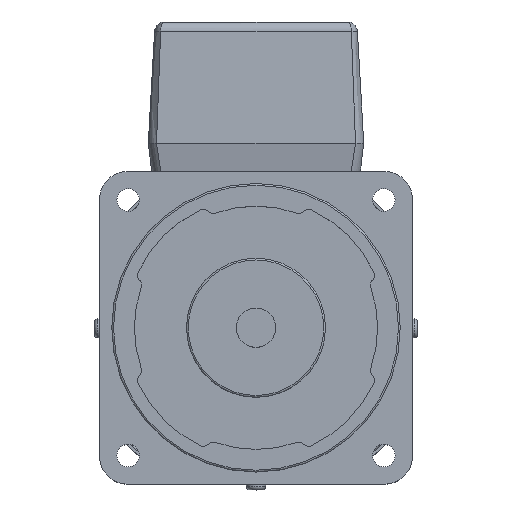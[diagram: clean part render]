
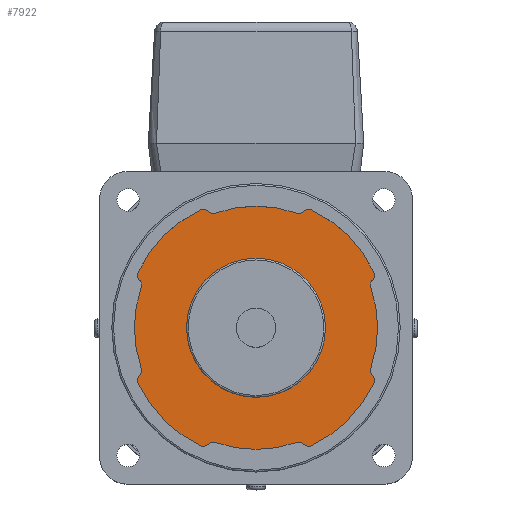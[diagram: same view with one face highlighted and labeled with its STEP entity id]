
A CAD part, top view. The second image highlights one B-rep face of the part: STEP entity #7922.
In plain terms, the highlighted planar face has unit normal (0, 0, 1).
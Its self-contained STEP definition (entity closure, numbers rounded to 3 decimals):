
#1511=CARTESIAN_POINT('',(20.0,0.,116.0));
#1512=VERTEX_POINT('',#1511);
#1513=CARTESIAN_POINT('',(0.,0.,116.0));
#1514=DIRECTION('',(0.0,0.0,-1.0));
#1515=DIRECTION('',(-1.0,0.0,0.0));
#1516=AXIS2_PLACEMENT_3D('',#1513,#1514,#1515);
#1517=CIRCLE('',#1516,20.0);
#1518=EDGE_CURVE('',#1512,#1512,#1517,.T.);
#1541=CARTESIAN_POINT('',(-13.722,-33.501,116.0));
#1542=VERTEX_POINT('',#1541);
#1558=CARTESIAN_POINT('',(-11.626,-33.013,116.0));
#1559=VERTEX_POINT('',#1558);
#1566=CARTESIAN_POINT('',(-12.291,-34.899,116.0));
#1567=DIRECTION('',(0.0,0.0,-1.0));
#1568=DIRECTION('',(-0.408,0.913,0.0));
#1569=AXIS2_PLACEMENT_3D('',#1566,#1567,#1568);
#1570=CIRCLE('',#1569,2.0);
#1571=EDGE_CURVE('',#1559,#1542,#1570,.F.);
#1591=CARTESIAN_POINT('',(11.626,-33.013,116.0));
#1592=VERTEX_POINT('',#1591);
#1599=CARTESIAN_POINT('',(0.,0.,116.));
#1600=DIRECTION('',(0.,0.,1.0));
#1601=DIRECTION('',(-0.383,-0.924,0.));
#1602=AXIS2_PLACEMENT_3D('',#1599,#1600,#1601);
#1603=CIRCLE('',#1602,35.0);
#1604=EDGE_CURVE('',#1559,#1592,#1603,.T.);
#1614=CARTESIAN_POINT('',(13.722,-33.501,116.0));
#1615=VERTEX_POINT('',#1614);
#1624=CARTESIAN_POINT('',(12.291,-34.899,116.0));
#1625=DIRECTION('',(0.0,0.0,-1.0));
#1626=DIRECTION('',(0.408,0.913,0.0));
#1627=AXIS2_PLACEMENT_3D('',#1624,#1625,#1626);
#1628=CIRCLE('',#1627,2.0);
#1629=EDGE_CURVE('',#1615,#1592,#1628,.F.);
#1656=CARTESIAN_POINT('',(16.006,-33.913,116.0));
#1657=VERTEX_POINT('',#1656);
#1664=CARTESIAN_POINT('',(15.152,-32.104,116.0));
#1665=DIRECTION('',(0.0,0.0,1.0));
#1666=DIRECTION('',(0.715,0.699,0.0));
#1667=AXIS2_PLACEMENT_3D('',#1664,#1665,#1666);
#1668=CIRCLE('',#1667,2.);
#1669=EDGE_CURVE('',#1615,#1657,#1668,.T.);
#1680=CARTESIAN_POINT('',(33.913,-16.006,116.0));
#1681=VERTEX_POINT('',#1680);
#1690=CARTESIAN_POINT('',(0.,0.,116.));
#1691=DIRECTION('',(0.,0.,1.0));
#1692=DIRECTION('',(0.383,-0.924,0.));
#1693=AXIS2_PLACEMENT_3D('',#1690,#1691,#1692);
#1694=CIRCLE('',#1693,37.5);
#1695=EDGE_CURVE('',#1657,#1681,#1694,.T.);
#1722=CARTESIAN_POINT('',(33.501,-13.722,116.0));
#1723=VERTEX_POINT('',#1722);
#1730=CARTESIAN_POINT('',(32.104,-15.152,116.0));
#1731=DIRECTION('',(0.0,0.0,1.0));
#1732=DIRECTION('',(-0.904,0.427,0.0));
#1733=AXIS2_PLACEMENT_3D('',#1730,#1731,#1732);
#1734=CIRCLE('',#1733,2.);
#1735=EDGE_CURVE('',#1681,#1723,#1734,.T.);
#1756=CARTESIAN_POINT('',(33.013,-11.626,116.0));
#1757=VERTEX_POINT('',#1756);
#1764=CARTESIAN_POINT('',(34.899,-12.291,116.0));
#1765=DIRECTION('',(0.0,0.0,-1.0));
#1766=DIRECTION('',(-0.913,-0.408,0.0));
#1767=AXIS2_PLACEMENT_3D('',#1764,#1765,#1766);
#1768=CIRCLE('',#1767,2.0);
#1769=EDGE_CURVE('',#1757,#1723,#1768,.F.);
#1779=CARTESIAN_POINT('',(33.013,11.626,116.0));
#1780=VERTEX_POINT('',#1779);
#1789=CARTESIAN_POINT('',(0.,0.,116.));
#1790=DIRECTION('',(0.,0.,1.0));
#1791=DIRECTION('',(0.924,-0.383,0.));
#1792=AXIS2_PLACEMENT_3D('',#1789,#1790,#1791);
#1793=CIRCLE('',#1792,35.);
#1794=EDGE_CURVE('',#1757,#1780,#1793,.T.);
#1812=CARTESIAN_POINT('',(33.501,13.722,116.0));
#1813=VERTEX_POINT('',#1812);
#1822=CARTESIAN_POINT('',(34.899,12.291,116.0));
#1823=DIRECTION('',(0.0,0.0,-1.0));
#1824=DIRECTION('',(-0.913,0.408,0.0));
#1825=AXIS2_PLACEMENT_3D('',#1822,#1823,#1824);
#1826=CIRCLE('',#1825,2.0);
#1827=EDGE_CURVE('',#1813,#1780,#1826,.F.);
#1854=CARTESIAN_POINT('',(33.913,16.006,116.0));
#1855=VERTEX_POINT('',#1854);
#1862=CARTESIAN_POINT('',(32.104,15.152,116.0));
#1863=DIRECTION('',(0.0,0.0,1.0));
#1864=DIRECTION('',(-0.699,0.715,0.0));
#1865=AXIS2_PLACEMENT_3D('',#1862,#1863,#1864);
#1866=CIRCLE('',#1865,2.);
#1867=EDGE_CURVE('',#1813,#1855,#1866,.T.);
#1878=CARTESIAN_POINT('',(16.006,33.913,116.0));
#1879=VERTEX_POINT('',#1878);
#1888=CARTESIAN_POINT('',(0.,0.,116.));
#1889=DIRECTION('',(0.,0.,1.0));
#1890=DIRECTION('',(0.924,0.383,0.));
#1891=AXIS2_PLACEMENT_3D('',#1888,#1889,#1890);
#1892=CIRCLE('',#1891,37.5);
#1893=EDGE_CURVE('',#1855,#1879,#1892,.T.);
#1920=CARTESIAN_POINT('',(13.722,33.501,116.0));
#1921=VERTEX_POINT('',#1920);
#1928=CARTESIAN_POINT('',(15.152,32.104,116.0));
#1929=DIRECTION('',(0.0,0.0,1.0));
#1930=DIRECTION('',(-0.427,-0.904,0.0));
#1931=AXIS2_PLACEMENT_3D('',#1928,#1929,#1930);
#1932=CIRCLE('',#1931,2.);
#1933=EDGE_CURVE('',#1879,#1921,#1932,.T.);
#1954=CARTESIAN_POINT('',(11.626,33.013,116.0));
#1955=VERTEX_POINT('',#1954);
#1962=CARTESIAN_POINT('',(12.291,34.899,116.0));
#1963=DIRECTION('',(0.0,0.0,-1.0));
#1964=DIRECTION('',(0.408,-0.913,0.0));
#1965=AXIS2_PLACEMENT_3D('',#1962,#1963,#1964);
#1966=CIRCLE('',#1965,2.0);
#1967=EDGE_CURVE('',#1955,#1921,#1966,.F.);
#1977=CARTESIAN_POINT('',(-11.626,33.013,116.0));
#1978=VERTEX_POINT('',#1977);
#1987=CARTESIAN_POINT('',(0.,0.,116.));
#1988=DIRECTION('',(0.,0.,1.0));
#1989=DIRECTION('',(0.383,0.924,0.));
#1990=AXIS2_PLACEMENT_3D('',#1987,#1988,#1989);
#1991=CIRCLE('',#1990,35.0);
#1992=EDGE_CURVE('',#1955,#1978,#1991,.T.);
#2010=CARTESIAN_POINT('',(-13.722,33.501,116.0));
#2011=VERTEX_POINT('',#2010);
#2020=CARTESIAN_POINT('',(-12.291,34.899,116.0));
#2021=DIRECTION('',(0.0,0.0,-1.0));
#2022=DIRECTION('',(-0.408,-0.913,0.0));
#2023=AXIS2_PLACEMENT_3D('',#2020,#2021,#2022);
#2024=CIRCLE('',#2023,2.0);
#2025=EDGE_CURVE('',#2011,#1978,#2024,.F.);
#2052=CARTESIAN_POINT('',(-16.006,33.913,116.0));
#2053=VERTEX_POINT('',#2052);
#2060=CARTESIAN_POINT('',(-15.152,32.104,116.0));
#2061=DIRECTION('',(0.0,0.0,1.0));
#2062=DIRECTION('',(-0.715,-0.699,0.0));
#2063=AXIS2_PLACEMENT_3D('',#2060,#2061,#2062);
#2064=CIRCLE('',#2063,2.);
#2065=EDGE_CURVE('',#2011,#2053,#2064,.T.);
#2086=CARTESIAN_POINT('',(-33.913,16.006,116.0));
#2087=VERTEX_POINT('',#2086);
#2094=CARTESIAN_POINT('',(0.,0.,116.));
#2095=DIRECTION('',(0.,0.,1.0));
#2096=DIRECTION('',(-0.383,0.924,0.));
#2097=AXIS2_PLACEMENT_3D('',#2094,#2095,#2096);
#2098=CIRCLE('',#2097,37.5);
#2099=EDGE_CURVE('',#2053,#2087,#2098,.T.);
#2118=CARTESIAN_POINT('',(-33.501,13.722,116.0));
#2119=VERTEX_POINT('',#2118);
#2126=CARTESIAN_POINT('',(-32.104,15.152,116.0));
#2127=DIRECTION('',(0.0,0.0,1.0));
#2128=DIRECTION('',(0.904,-0.427,0.0));
#2129=AXIS2_PLACEMENT_3D('',#2126,#2127,#2128);
#2130=CIRCLE('',#2129,2.);
#2131=EDGE_CURVE('',#2087,#2119,#2130,.T.);
#2152=CARTESIAN_POINT('',(-33.013,11.626,116.0));
#2153=VERTEX_POINT('',#2152);
#2160=CARTESIAN_POINT('',(-34.899,12.291,116.0));
#2161=DIRECTION('',(0.0,0.0,-1.0));
#2162=DIRECTION('',(0.913,0.408,0.0));
#2163=AXIS2_PLACEMENT_3D('',#2160,#2161,#2162);
#2164=CIRCLE('',#2163,2.0);
#2165=EDGE_CURVE('',#2153,#2119,#2164,.F.);
#2175=CARTESIAN_POINT('',(-33.013,-11.626,116.0));
#2176=VERTEX_POINT('',#2175);
#2185=CARTESIAN_POINT('',(0.,0.,116.));
#2186=DIRECTION('',(0.,0.,1.0));
#2187=DIRECTION('',(-0.924,0.383,0.));
#2188=AXIS2_PLACEMENT_3D('',#2185,#2186,#2187);
#2189=CIRCLE('',#2188,35.0);
#2190=EDGE_CURVE('',#2153,#2176,#2189,.T.);
#2208=CARTESIAN_POINT('',(-33.501,-13.722,116.0));
#2209=VERTEX_POINT('',#2208);
#2218=CARTESIAN_POINT('',(-34.899,-12.291,116.0));
#2219=DIRECTION('',(0.0,0.0,-1.0));
#2220=DIRECTION('',(0.913,-0.408,0.0));
#2221=AXIS2_PLACEMENT_3D('',#2218,#2219,#2220);
#2222=CIRCLE('',#2221,2.0);
#2223=EDGE_CURVE('',#2209,#2176,#2222,.F.);
#2250=CARTESIAN_POINT('',(-33.913,-16.006,116.0));
#2251=VERTEX_POINT('',#2250);
#2258=CARTESIAN_POINT('',(-32.104,-15.152,116.0));
#2259=DIRECTION('',(0.0,0.0,1.0));
#2260=DIRECTION('',(0.699,-0.715,0.0));
#2261=AXIS2_PLACEMENT_3D('',#2258,#2259,#2260);
#2262=CIRCLE('',#2261,2.);
#2263=EDGE_CURVE('',#2209,#2251,#2262,.T.);
#2274=CARTESIAN_POINT('',(-16.006,-33.913,116.0));
#2275=VERTEX_POINT('',#2274);
#2284=CARTESIAN_POINT('',(0.,0.,116.));
#2285=DIRECTION('',(0.,0.,1.0));
#2286=DIRECTION('',(-0.924,-0.383,0.));
#2287=AXIS2_PLACEMENT_3D('',#2284,#2285,#2286);
#2288=CIRCLE('',#2287,37.5);
#2289=EDGE_CURVE('',#2251,#2275,#2288,.T.);
#2315=CARTESIAN_POINT('',(-15.152,-32.104,116.0));
#2316=DIRECTION('',(0.0,0.0,1.0));
#2317=DIRECTION('',(0.427,0.904,0.0));
#2318=AXIS2_PLACEMENT_3D('',#2315,#2316,#2317);
#2319=CIRCLE('',#2318,2.);
#2320=EDGE_CURVE('',#2275,#1542,#2319,.T.);
#7888=CARTESIAN_POINT('',(0.,0.,116.0));
#7889=DIRECTION('',(0.0,0.0,1.0));
#7890=DIRECTION('',(1.0,0.0,0.0));
#7891=AXIS2_PLACEMENT_3D('',#7888,#7889,#7890);
#7892=PLANE('',#7891);
#7893=ORIENTED_EDGE('',*,*,#2320,.T.);
#7894=ORIENTED_EDGE('',*,*,#1571,.F.);
#7895=ORIENTED_EDGE('',*,*,#1604,.T.);
#7896=ORIENTED_EDGE('',*,*,#1629,.F.);
#7897=ORIENTED_EDGE('',*,*,#1669,.T.);
#7898=ORIENTED_EDGE('',*,*,#1695,.T.);
#7899=ORIENTED_EDGE('',*,*,#1735,.T.);
#7900=ORIENTED_EDGE('',*,*,#1769,.F.);
#7901=ORIENTED_EDGE('',*,*,#1794,.T.);
#7902=ORIENTED_EDGE('',*,*,#1827,.F.);
#7903=ORIENTED_EDGE('',*,*,#1867,.T.);
#7904=ORIENTED_EDGE('',*,*,#1893,.T.);
#7905=ORIENTED_EDGE('',*,*,#1933,.T.);
#7906=ORIENTED_EDGE('',*,*,#1967,.F.);
#7907=ORIENTED_EDGE('',*,*,#1992,.T.);
#7908=ORIENTED_EDGE('',*,*,#2025,.F.);
#7909=ORIENTED_EDGE('',*,*,#2065,.T.);
#7910=ORIENTED_EDGE('',*,*,#2099,.T.);
#7911=ORIENTED_EDGE('',*,*,#2131,.T.);
#7912=ORIENTED_EDGE('',*,*,#2165,.F.);
#7913=ORIENTED_EDGE('',*,*,#2190,.T.);
#7914=ORIENTED_EDGE('',*,*,#2223,.F.);
#7915=ORIENTED_EDGE('',*,*,#2263,.T.);
#7916=ORIENTED_EDGE('',*,*,#2289,.T.);
#7917=EDGE_LOOP('',(#7893,#7894,#7895,#7896,#7897,#7898,#7899,#7900,#7901,#7902,#7903,#7904,#7905,#7906,#7907,#7908,#7909,#7910,#7911,#7912,#7913,#7914,#7915,#7916));
#7918=FACE_OUTER_BOUND('',#7917,.T.);
#7919=ORIENTED_EDGE('',*,*,#1518,.T.);
#7920=EDGE_LOOP('',(#7919));
#7921=FACE_BOUND('',#7920,.T.);
#7922=ADVANCED_FACE('',(#7918,#7921),#7892,.T.);
